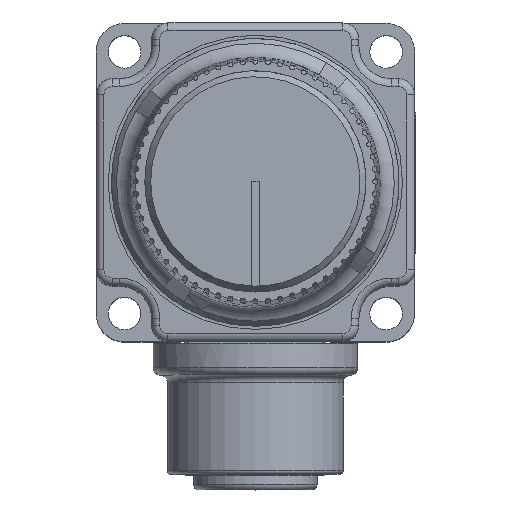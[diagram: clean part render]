
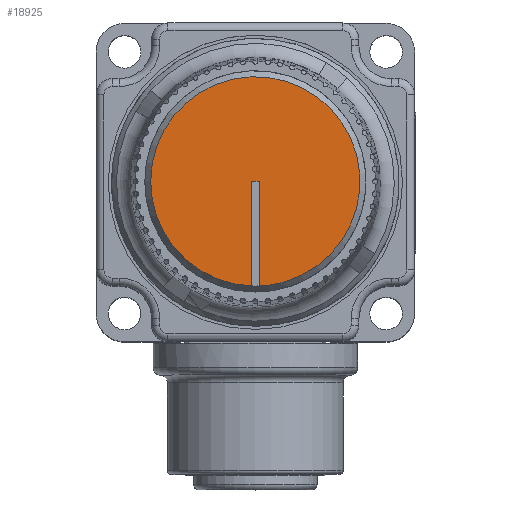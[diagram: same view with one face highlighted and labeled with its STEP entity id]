
A CAD part, top view. The second image highlights one B-rep face of the part: STEP entity #18925.
In plain terms, the highlighted planar face has unit normal (0, 0, 1).
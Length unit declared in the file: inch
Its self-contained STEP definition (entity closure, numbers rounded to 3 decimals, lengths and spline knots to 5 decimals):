
#951=PLANE('',#20570);
#1778=FACE_OUTER_BOUND('',#2882,.T.);
#2882=EDGE_LOOP('',(#14908,#14909,#14910,#14911,#14912));
#3761=CIRCLE('',#20571,0.4);
#3762=CIRCLE('',#20572,0.4);
#5282=LINE('',#32111,#6654);
#5283=LINE('',#32117,#6655);
#5284=LINE('',#32118,#6656);
#6654=VECTOR('',#24790,0.3937);
#6655=VECTOR('',#24795,0.3937);
#6656=VECTOR('',#24796,0.3937);
#8206=VERTEX_POINT('',#32109);
#8207=VERTEX_POINT('',#32110);
#8208=VERTEX_POINT('',#32112);
#8209=VERTEX_POINT('',#32114);
#8210=VERTEX_POINT('',#32116);
#10549=EDGE_CURVE('',#8206,#8207,#5282,.T.);
#10550=EDGE_CURVE('',#8207,#8208,#3761,.T.);
#10551=EDGE_CURVE('',#8208,#8209,#3762,.T.);
#10552=EDGE_CURVE('',#8209,#8210,#5283,.T.);
#10553=EDGE_CURVE('',#8210,#8206,#5284,.T.);
#14908=ORIENTED_EDGE('',*,*,#10549,.T.);
#14909=ORIENTED_EDGE('',*,*,#10550,.T.);
#14910=ORIENTED_EDGE('',*,*,#10551,.T.);
#14911=ORIENTED_EDGE('',*,*,#10552,.T.);
#14912=ORIENTED_EDGE('',*,*,#10553,.T.);
#18925=ADVANCED_FACE('',(#1778),#951,.T.);
#20570=AXIS2_PLACEMENT_3D('',#32108,#24788,#24789);
#20571=AXIS2_PLACEMENT_3D('',#32113,#24791,#24792);
#20572=AXIS2_PLACEMENT_3D('',#32115,#24793,#24794);
#24788=DIRECTION('center_axis',(0.,0.,1.));
#24789=DIRECTION('ref_axis',(1.,0.,0.));
#24790=DIRECTION('',(0.,-1.,0.));
#24791=DIRECTION('center_axis',(0.,0.,
1.));
#24792=DIRECTION('ref_axis',(0.325,0.946,0.));
#24793=DIRECTION('center_axis',(0.,0.,
1.));
#24794=DIRECTION('ref_axis',(0.325,0.946,0.));
#24795=DIRECTION('',(0.,1.,0.));
#24796=DIRECTION('',(1.,0.,0.));
#32108=CARTESIAN_POINT('Origin',(-0.16178,-0.30008,
1.82375));
#32109=CARTESIAN_POINT('',(-0.14678,0.10003,1.82375));
#32110=CARTESIAN_POINT('',(-0.14678,-0.29969,1.82375));
#32111=CARTESIAN_POINT('',(-0.14678,0.10003,1.82375));
#32112=CARTESIAN_POINT('',(-0.0476,-0.28333,1.82375));
#32113=CARTESIAN_POINT('Origin',(-0.16178,0.10003,1.82375));
#32114=CARTESIAN_POINT('',(-0.17678,-0.29969,1.82375));
#32115=CARTESIAN_POINT('Origin',(-0.16178,0.10003,1.82375));
#32116=CARTESIAN_POINT('',(-0.17678,0.10003,1.82375));
#32117=CARTESIAN_POINT('',(-0.17678,-0.29969,1.82375));
#32118=CARTESIAN_POINT('',(-0.17678,0.10003,1.82375));
